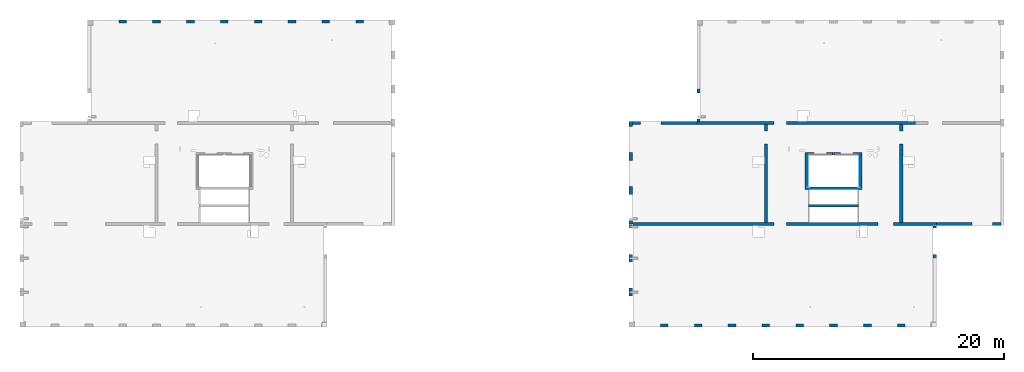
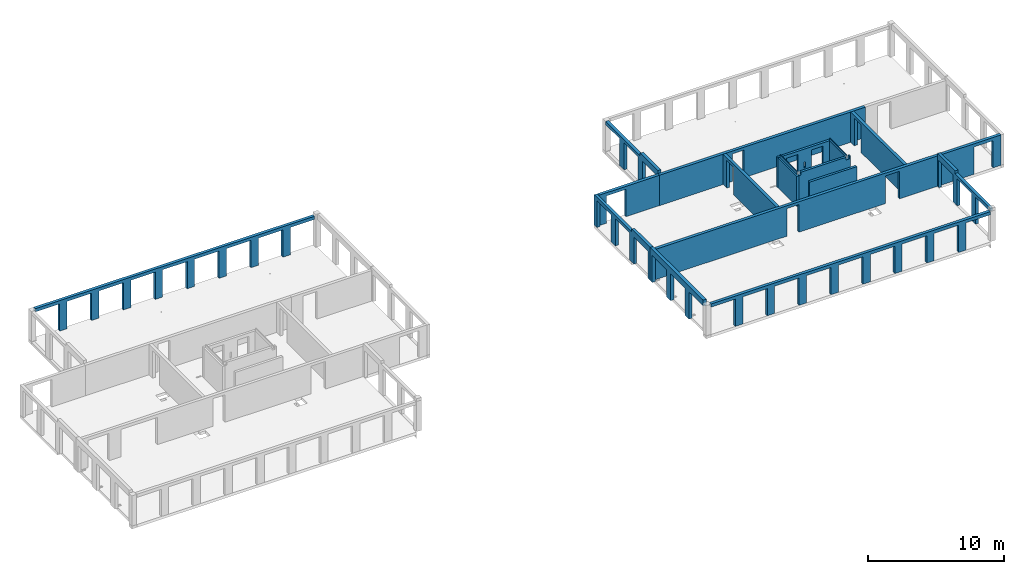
# One storey, part 5 of 11: 19 walls, 46 openings.
"""IFC2X3 building model written with IfcOpenShell, lengths in millimetres."""

import ifcopenshell
import ifcopenshell.guid

model = None  # the IFC model being written
_history = None  # IfcOwnerHistory: only IFC2X3 demands one
_inside = {}  # id of a spatial element -> (the spatial element, [elements in it])
_under = {}  # id of a project, library or spatial element -> (it, [spatial elements below it])
_declared = {}  # id of a project -> (the project, [libraries it declares])
_typed = {}  # id of a type object -> (the type object, [elements of that type])
_made_of = {}  # id of a material, layer set ... -> (it, [elements and type objects made of it])


def new_model(schema):
    """Start an empty IFC model of exactly this schema.

    Asked for "IFC4X3", IfcOpenShell would pick the latest addendum, in which some entities
    have other attributes; the version numbers below select the first issue.
    IFC2X3 requires an IfcOwnerHistory on every rooted entity: one is made here for all.
    """
    global model, _history
    if schema == "IFC4X3":
        model = ifcopenshell.file(schema_version=(4, 3, 0, 0))
    else:
        model = ifcopenshell.file(schema=schema)
    _inside.clear()
    _under.clear()
    _declared.clear()
    _typed.clear()
    _made_of.clear()
    _history = None
    if model.schema == "IFC2X3":
        org = make("IfcOrganization", Name="unknown")
        user = make(
            "IfcPersonAndOrganization",
            ThePerson=make("IfcPerson", FamilyName="unknown"),
            TheOrganization=org,
        )
        app = make(
            "IfcApplication",
            ApplicationDeveloper=org,
            Version="unknown",
            ApplicationFullName="unknown",
            ApplicationIdentifier="unknown",
        )
        _history = make(
            "IfcOwnerHistory",
            OwningUser=user,
            OwningApplication=app,
            ChangeAction="ADDED",
            CreationDate=0,
        )
    return model


def make(cls, **values):
    """One entity of the class cls with the attributes given. An attribute that is None is left unset."""
    return model.create_entity(
        cls, **{name: value for name, value in values.items() if value is not None}
    )


def entity(cls, *values):
    """Any entity or typed value of the class cls, its attributes in the order of the schema. None: left unset."""
    e = model.create_entity(cls)
    for i, value in enumerate(values):
        if value is not None:
            e[i] = value
    return e


def rooted(cls, **values):
    """An entity with a GlobalId (a new one), such as an element, a storey or a relation."""
    return make(cls, GlobalId=ifcopenshell.guid.new(), OwnerHistory=_history, **values)


def si_unit(unit_type, name, prefix=None):
    """IfcSIUnit, for example si_unit("LENGTHUNIT", "METRE", prefix="MILLI")."""
    return make("IfcSIUnit", UnitType=unit_type, Prefix=prefix, Name=name)


def converted_unit(unit_type, name, factor, base, dimensions=None, offset=None):
    """IfcConversionBasedUnit, such as the inch: factor (a typed value) times the base unit."""
    return make(
        "IfcConversionBasedUnit"
        if offset is None
        else "IfcConversionBasedUnitWithOffset",
        ConversionOffset=offset,
        Dimensions=None
        if dimensions is None
        else entity("IfcDimensionalExponents", *dimensions),
        UnitType=unit_type,
        Name=name,
        ConversionFactor=make(
            "IfcMeasureWithUnit", ValueComponent=factor, UnitComponent=base
        ),
    )


def derived_unit(unit_type, elements):
    """IfcDerivedUnit: a product of units, each with its exponent."""
    return make(
        "IfcDerivedUnit",
        Elements=[
            make("IfcDerivedUnitElement", Unit=unit, Exponent=power)
            for unit, power in elements
        ],
        UnitType=unit_type,
    )


def assignment(units):
    """IfcUnitAssignment: the units of a project."""
    return None if units is None else make("IfcUnitAssignment", Units=units)


def point(xyz):
    """IfcCartesianPoint."""
    return None if xyz is None else make("IfcCartesianPoint", Coordinates=xyz)


def direction(xyz):
    """IfcDirection."""
    return None if xyz is None else make("IfcDirection", DirectionRatios=xyz)


def frame(location, z_axis=None, x_axis=None):
    """IfcAxis2Placement3D, a coordinate frame: its origin and axes. An axis left out is left unset."""
    return make(
        "IfcAxis2Placement3D",
        Location=point(location),
        Axis=direction(z_axis),
        RefDirection=direction(x_axis),
    )


def frame_2d(location, x_axis=None):
    """IfcAxis2Placement2D, a coordinate frame in the plane: its origin and x axis."""
    return make(
        "IfcAxis2Placement2D", Location=point(location), RefDirection=direction(x_axis)
    )


def origin():
    """The frame at (0, 0, 0) with its axes left unset."""
    return frame((0.0, 0.0, 0.0))


def place(relative_to, where):
    """IfcLocalPlacement: puts the frame where relative to a parent placement (None: the world)."""
    return make(
        "IfcLocalPlacement", PlacementRelTo=relative_to, RelativePlacement=where
    )


def context(
    kind, dimensions, precision=None, world=None, true_north=None, identifier=None
):
    """IfcGeometricRepresentationContext, for example the 3D "Model" context."""
    return make(
        "IfcGeometricRepresentationContext",
        ContextIdentifier=identifier,
        ContextType=kind,
        CoordinateSpaceDimension=dimensions,
        Precision=precision,
        WorldCoordinateSystem=world,
        TrueNorth=true_north,
    )


def subcontext(parent, identifier, kind, view, scale=None):
    """IfcGeometricRepresentationSubContext, for example "Body" below "Model"."""
    return make(
        "IfcGeometricRepresentationSubContext",
        ContextIdentifier=identifier,
        ContextType=kind,
        ParentContext=parent,
        TargetScale=scale,
        TargetView=view,
    )


def project(units=None, contexts=None):
    """IfcProject with its units and contexts."""
    return rooted(
        "IfcProject",
        Name="project",
        RepresentationContexts=contexts,
        UnitsInContext=assignment(units),
    )


def spatial(cls, under=None, at=None, **own):
    """A site, building, storey or space (cls), placed at a placement, below another one or the project."""
    s = rooted(cls, ObjectPlacement=at, **own)
    if under is not None:
        _under.setdefault(under.id(), (under, []))[1].append(s)
    return s


def profile(cls, at=None, kind="AREA", **sizes):
    """A parametric profile (cls). Its sizes go by their IFC names, for example OverallWidth=200.0."""
    return make(cls, ProfileType=kind, Position=at, **sizes)


def rectangle(**sizes):
    """IfcRectangleProfileDef."""
    return profile("IfcRectangleProfileDef", **sizes)


def extrude(swept, where, along, depth):
    """IfcExtrudedAreaSolid: the profile swept, set in the frame where, extruded along a direction by depth."""
    return make(
        "IfcExtrudedAreaSolid",
        SweptArea=swept,
        Position=where,
        ExtrudedDirection=direction(along),
        Depth=depth,
    )


def shape(context_of_items, identifier, shape_type, items):
    """IfcShapeRepresentation: the items that make up one representation, for example the "Body"."""
    return make(
        "IfcShapeRepresentation",
        ContextOfItems=context_of_items,
        RepresentationIdentifier=identifier,
        RepresentationType=shape_type,
        Items=items,
    )


def material(Name=None, Category=None):
    """IfcMaterial."""
    return make("IfcMaterial", Name=Name, Category=Category)


def layer(
    of_material, thickness, ventilated=None, Name=None, Category=None, Priority=None
):
    """IfcMaterialLayer: one layer of a wall or slab, of a material (None: an air gap)."""
    return make(
        "IfcMaterialLayer",
        Material=of_material,
        LayerThickness=thickness,
        IsVentilated=ventilated,
        Name=Name,
        Category=Category,
        Priority=Priority,
    )


def layer_set(layers, Name=None):
    """IfcMaterialLayerSet."""
    return make("IfcMaterialLayerSet", MaterialLayers=layers, LayerSetName=Name)


def layer_usage(for_layer_set, set_direction, sense, offset, extent=None):
    """IfcMaterialLayerSetUsage: how a layer set lies in its element."""
    return make(
        "IfcMaterialLayerSetUsage",
        ForLayerSet=for_layer_set,
        LayerSetDirection=set_direction,
        DirectionSense=sense,
        OffsetFromReferenceLine=offset,
        ReferenceExtent=extent,
    )


def made_of(thing, what):
    """Note that an element or type object is made of a material, layer set ...; save() writes the relation."""
    if what is not None:
        _made_of.setdefault(what.id(), (what, []))[1].append(thing)
    return thing


def type_object(cls, material=None, **own):
    """A type object (cls), such as IfcWallType, which elements share."""
    return made_of(rooted(cls, **own), material)


def element(
    cls,
    number,
    at=None,
    inside=None,
    cuts=None,
    type_object=None,
    material=None,
    context=None,
    identifier="Body",
    shape_type=None,
    held_by="IfcProductDefinitionShape",
    body=None,
    shapes=None,
    **own,
):
    """One element of the class cls, such as IfcWall. Its Tag is "e" and its number.

    at: its placement. inside: the storey or other place that contains it. cuts: it is an
    opening in that element (IfcRelVoidsElement). A single representation is given by context,
    identifier, shape_type and body (its items); several are given by shapes. held_by: the class
    of the entity that holds the representations. save() writes the other relations.
    """
    e = rooted(cls, Tag="e%d" % number, ObjectPlacement=at, **own)
    if body is not None:
        shapes = [shape(context, identifier, shape_type, body)]
    if shapes is not None:
        e.Representation = make(held_by, Representations=shapes)
    if inside is not None:
        _inside.setdefault(inside.id(), (inside, []))[1].append(e)
    if cuts is not None:
        rooted(
            "IfcRelVoidsElement", RelatingBuildingElement=cuts, RelatedOpeningElement=e
        )
    if type_object is not None:
        _typed.setdefault(type_object.id(), (type_object, []))[1].append(e)
    return made_of(e, material)


def aggregate(whole, parts):
    """IfcRelAggregates: a whole, such as a stair, and the parts it consists of."""
    return rooted("IfcRelAggregates", RelatingObject=whole, RelatedObjects=parts)


def save(model, path):
    """Write the relations noted so far, then the file.

    IfcRelAggregates (storeys below a building ...), IfcRelContainedInSpatialStructure (elements
    in a storey), IfcRelDefinesByType, IfcRelAssociatesMaterial and IfcRelDeclares: one each for
    every whole, place, type object, material and project.
    """
    for whole, parts in _under.values():
        aggregate(whole, parts)
    for where, things in _inside.values():
        rooted(
            "IfcRelContainedInSpatialStructure",
            RelatedElements=things,
            RelatingStructure=where,
        )
    for kind, things in _typed.values():
        rooted("IfcRelDefinesByType", RelatedObjects=things, RelatingType=kind)
    for what, things in _made_of.values():
        rooted("IfcRelAssociatesMaterial", RelatedObjects=things, RelatingMaterial=what)
    for by, libraries in _declared.values():
        rooted("IfcRelDeclares", RelatingContext=by, RelatedDefinitions=libraries)
    model.write(path)


model = new_model("IFC2X3")

# Units and contexts
model_context = context("Model", 3, precision=0.01, world=origin(), true_north=direction((6.12303176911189e-17, 1.0)))
body_context = subcontext(model_context, "Body", "Model", "MODEL_VIEW")
ifc_project = project(units=[si_unit("LENGTHUNIT", "METRE", prefix="MILLI"), si_unit("AREAUNIT", "SQUARE_METRE"), si_unit("VOLUMEUNIT", "CUBIC_METRE"), converted_unit("PLANEANGLEUNIT", "DEGREE", entity("IfcRatioMeasure", 0.0174532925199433), si_unit("PLANEANGLEUNIT", "RADIAN"), dimensions=[0, 0, 0, 0, 0, 0, 0]), si_unit("MASSUNIT", "GRAM", prefix="KILO"), derived_unit("MASSDENSITYUNIT", [(si_unit("MASSUNIT", "GRAM", prefix="KILO"), 1), (si_unit("LENGTHUNIT", "METRE"), -3)]), si_unit("TIMEUNIT", "SECOND"), si_unit("FREQUENCYUNIT", "HERTZ"), si_unit("THERMODYNAMICTEMPERATUREUNIT", "DEGREE_CELSIUS"), derived_unit("THERMALTRANSMITTANCEUNIT", [(si_unit("MASSUNIT", "GRAM", prefix="KILO"), 1), (si_unit("THERMODYNAMICTEMPERATUREUNIT", "KELVIN"), -1), (si_unit("TIMEUNIT", "SECOND"), -3)]), derived_unit("VOLUMETRICFLOWRATEUNIT", [(si_unit("LENGTHUNIT", "METRE"), 3), (si_unit("TIMEUNIT", "SECOND"), -1)]), si_unit("ELECTRICCURRENTUNIT", "AMPERE"), si_unit("ELECTRICVOLTAGEUNIT", "VOLT"), si_unit("POWERUNIT", "WATT"), si_unit("FORCEUNIT", "NEWTON", prefix="KILO"), si_unit("ILLUMINANCEUNIT", "LUX"), si_unit("LUMINOUSFLUXUNIT", "LUMEN"), si_unit("LUMINOUSINTENSITYUNIT", "CANDELA"), derived_unit("USERDEFINED", [(si_unit("MASSUNIT", "GRAM", prefix="KILO"), -1), (si_unit("LENGTHUNIT", "METRE"), -2), (si_unit("TIMEUNIT", "SECOND"), 3), (si_unit("LUMINOUSFLUXUNIT", "LUMEN"), 1)]), derived_unit("LINEARVELOCITYUNIT", [(si_unit("LENGTHUNIT", "METRE"), 1), (si_unit("TIMEUNIT", "SECOND"), -1)]), si_unit("PRESSUREUNIT", "PASCAL"), derived_unit("USERDEFINED", [(si_unit("LENGTHUNIT", "METRE"), -2), (si_unit("MASSUNIT", "GRAM", prefix="KILO"), 1), (si_unit("TIMEUNIT", "SECOND"), -2)])], contexts=[model_context])

# Site, building, storey
site_placement = place(None, origin())
site = spatial("IfcSite", under=ifc_project, at=site_placement, Name="Default", CompositionType="ELEMENT")
building_placement = place(site_placement, origin())
building = spatial("IfcBuilding", under=site, at=building_placement, Name="niet gebruiken", CompositionType="ELEMENT")
storey_placement = place(building_placement, frame((0.0, 0.0, 57150.0)))
storey = spatial("IfcBuildingStorey", under=building, at=storey_placement, Name="19 negentiende verdieping", CompositionType="ELEMENT", Elevation=57150.0)

# Wall, openings
ifc_material_1 = material(Name="NLRS_f2_beton ihwg")
ifc_layer_1 = layer(ifc_material_1, 250.0)
ifc_layer_set_1 = layer_set([ifc_layer_1], Name="Basic Wall:NLRS_22.21_WA_beton ihwg d=250_gen")
ifc_layer_usage_1 = layer_usage(ifc_layer_set_1, "AXIS2", "NEGATIVE", 125.0)
wall_type_1 = type_object("IfcWallType", Name="Basic Wall:NLRS_22.21_WA_beton ihwg d=250_gen", PredefinedType="STANDARD", material=ifc_layer_set_1)
wall_1_placement = place(storey_placement, frame((75770.0, 36981.0, -90.0)))
wall_1 = element("IfcWallStandardCase", 1, at=wall_1_placement, inside=storey, type_object=wall_type_1, material=ifc_layer_usage_1, Name="Basic Wall:NLRS_22.21_WA_beton ihwg d=250_gen", ObjectType="Basic Wall:NLRS_22.21_WA_beton ihwg d=250_gen", context=body_context, shape_type="SweptSolid", body=[
    extrude(rectangle(XDim=24230.0000000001, YDim=250.000000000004, at=frame_2d((12115.0, 0.0), x_axis=(-1.0, 0.0))), origin(), (0.0, 0.0, 1.0), 2719.99999999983),
])
opening_1_placement = place(wall_1_placement, origin())
element("IfcOpeningElement", 2, at=opening_1_placement, cuts=wall_1, Name="Basic Wall:NLRS_22.21_WA_beton ihwg d=250_gen", ObjectType="Opening", context=body_context, shape_type="SweptSolid", body=[
    extrude(rectangle(XDim=2470.0, YDim=1225.0, at=frame_2d((8.69704308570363e-12, 4.43378667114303e-12), x_axis=(0.0, 1.0))), frame((20192.500000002, -1399.0, 1235.0), z_axis=(0.0, 1.0, 0.0), x_axis=(-1.0, 0.0, 0.0)), (0.0, 0.0, 1.0), 3048.0),
])
opening_2_placement = place(wall_1_placement, origin())
element("IfcOpeningElement", 3, at=opening_2_placement, cuts=wall_1, Name="Basic Wall:NLRS_22.21_WA_beton ihwg d=250_gen", ObjectType="Opening", context=body_context, shape_type="SweptSolid", body=[
    extrude(rectangle(XDim=2470.0, YDim=1006.0, at=frame_2d((-8.66862137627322e-12, -4.43378667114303e-12), x_axis=(0.0, 1.0))), frame((11782.0, -1399.0, 1235.0), z_axis=(0.0, 1.0, 0.0), x_axis=(-1.0, 0.0, 0.0)), (0.0, 0.0, 1.0), 3048.0),
])
opening_3_placement = place(wall_1_placement, origin())
element("IfcOpeningElement", 4, at=opening_3_placement, cuts=wall_1, Name="Basic Wall:NLRS_22.21_WA_beton ihwg d=250_gen", ObjectType="Recess", context=body_context, shape_type="SweptSolid", body=[
    extrude(rectangle(XDim=55000.0, YDim=19.9999999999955, at=frame_2d((0.0, 4.33164615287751e-12), x_axis=(1.0, 0.0))), frame((10.0, -140.0, -17050.0), z_axis=(0.0, 1.0, 0.0), x_axis=(0.0, 0.0, -1.0)), (0.0, 0.0, 1.0), 124.999999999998),
])

# Wall, opening
ifc_layer_usage_2 = layer_usage(ifc_layer_set_1, "AXIS2", "NEGATIVE", 125.0)
wall_2_placement = place(storey_placement, frame((75770.0, 45031.0, -90.0)))
wall_2 = element("IfcWallStandardCase", 5, at=wall_2_placement, inside=storey, type_object=wall_type_1, material=ifc_layer_usage_2, Name="Basic Wall:NLRS_22.21_WA_beton ihwg d=250_gen", ObjectType="Basic Wall:NLRS_22.21_WA_beton ihwg d=250_gen", context=body_context, shape_type="SweptSolid", body=[
    extrude(rectangle(XDim=5130.0, YDim=249.999999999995, at=frame_2d((2565.0, 0.0), x_axis=(-1.0, 0.0))), origin(), (0.0, 0.0, 1.0), 2719.99999999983),
])
opening_4_placement = place(wall_2_placement, origin())
element("IfcOpeningElement", 6, at=opening_4_placement, cuts=wall_2, Name="Basic Wall:NLRS_22.21_WA_beton ihwg d=250_gen", ObjectType="Opening", context=body_context, shape_type="SweptSolid", body=[
    extrude(rectangle(XDim=2440.0, YDim=1640.0, at=frame_2d((0.0, 4.37694325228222e-12), x_axis=(1.0, 0.0))), frame((1460.0, -1649.0, 1220.0), z_axis=(0.0, 1.0, 0.0), x_axis=(0.0, 0.0, 1.0)), (0.0, 0.0, 1.0), 3048.0),
])

ifc_layer_usage_3 = layer_usage(ifc_layer_set_1, "AXIS2", "NEGATIVE", 125.0)
wall_3_placement = place(storey_placement, frame((86400.0, 44906.0, -90.0), z_axis=(0.0, 0.0, 1.0), x_axis=(0.0, -1.0, 0.0)))
wall_3 = element("IfcWallStandardCase", 7, at=wall_3_placement, inside=storey, type_object=wall_type_1, material=ifc_layer_usage_3, Name="Basic Wall:NLRS_22.21_WA_beton ihwg d=250_gen", ObjectType="Basic Wall:NLRS_22.21_WA_beton ihwg d=250_gen", context=body_context, shape_type="SweptSolid", body=[
    extrude(rectangle(XDim=7799.99999999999, YDim=250.000000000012, at=frame_2d((3900.0, 0.0), x_axis=(-1.0, 0.0))), origin(), (0.0, 0.0, 1.0), 2719.99999999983),
])
opening_5_placement = place(wall_3_placement, origin())
element("IfcOpeningElement", 8, at=opening_5_placement, cuts=wall_3, Name="Basic Wall:NLRS_22.21_WA_beton ihwg d=250_gen", ObjectType="Opening", context=body_context, shape_type="SweptSolid", body=[
    extrude(rectangle(XDim=2470.0, YDim=1006.0, at=frame_2d((-4.43378667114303e-12, 0.0), x_axis=(1.0, 0.0))), frame((1027.0, -1649.0, 1235.0), z_axis=(0.0, 1.0, 0.0), x_axis=(0.0, 0.0, 1.0)), (0.0, 0.0, 1.0), 3048.0),
])

ifc_layer_usage_4 = layer_usage(ifc_layer_set_1, "AXIS2", "NEGATIVE", 125.0)
wall_4_placement = place(storey_placement, frame((97200.0, 44906.0, -90.0), z_axis=(0.0, 0.0, 1.0), x_axis=(0.0, -1.0, 0.0)))
wall_4 = element("IfcWallStandardCase", 9, at=wall_4_placement, inside=storey, type_object=wall_type_1, material=ifc_layer_usage_4, Name="Basic Wall:NLRS_22.21_WA_beton ihwg d=250_gen", ObjectType="Basic Wall:NLRS_22.21_WA_beton ihwg d=250_gen", context=body_context, shape_type="SweptSolid", body=[
    extrude(rectangle(XDim=7799.99999999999, YDim=250.000000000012, at=frame_2d((3900.0, 0.0), x_axis=(-1.0, 0.0))), origin(), (0.0, 0.0, 1.0), 2719.99999999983),
])
opening_6_placement = place(wall_4_placement, origin())
element("IfcOpeningElement", 10, at=opening_6_placement, cuts=wall_4, Name="Basic Wall:NLRS_22.21_WA_beton ihwg d=250_gen", ObjectType="Opening", context=body_context, shape_type="SweptSolid", body=[
    extrude(rectangle(XDim=2470.0, YDim=1006.0, at=frame_2d((4.43378667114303e-12, 0.0), x_axis=(1.0, 0.0))), frame((1027.0, -1649.0, 1235.0), z_axis=(0.0, 1.0, 0.0), x_axis=(0.0, 0.0, 1.0)), (0.0, 0.0, 1.0), 3048.0),
])

ifc_layer_usage_5 = layer_usage(ifc_layer_set_1, "AXIS2", "NEGATIVE", 125.0)
wall_5_placement = place(storey_placement, frame((80900.0, 45031.0, -90.0)))
wall_5 = element("IfcWallStandardCase", 11, at=wall_5_placement, inside=storey, type_object=wall_type_1, material=ifc_layer_usage_5, Name="Basic Wall:NLRS_22.21_WA_beton ihwg d=250_gen", ObjectType="Basic Wall:NLRS_22.21_WA_beton ihwg d=250_gen", context=body_context, shape_type="SweptSolid", body=[
    extrude(rectangle(XDim=17425.0, YDim=249.999999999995, at=frame_2d((8712.50000000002, 0.0), x_axis=(-1.0, 0.0))), origin(), (0.0, 0.0, 1.0), 2719.99999999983),
])
opening_7_placement = place(wall_5_placement, origin())
element("IfcOpeningElement", 12, at=opening_7_placement, cuts=wall_5, Name="Basic Wall:NLRS_22.21_WA_beton ihwg d=250_gen", ObjectType="Opening", context=body_context, shape_type="SweptSolid", body=[
    extrude(rectangle(XDim=2470.0, YDim=1006.0, at=frame_2d((4.43378667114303e-12, -8.66862137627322e-12), x_axis=(1.0, 0.0))), frame((6652.0, -1649.0, 1235.0), z_axis=(0.0, 1.0, 0.0), x_axis=(0.0, 0.0, 1.0)), (0.0, 0.0, 1.0), 3048.0),
])

ifc_layer_usage_6 = layer_usage(ifc_layer_set_1, "AXIS2", "NEGATIVE", 125.0)
wall_6_placement = place(storey_placement, frame((100000.0, 36981.0, -90.0)))
wall_6 = element("IfcWallStandardCase", 13, at=wall_6_placement, inside=storey, type_object=wall_type_1, material=ifc_layer_usage_6, Name="Basic Wall:NLRS_22.21_WA_beton ihwg d=250_gen", ObjectType="Basic Wall:NLRS_22.21_WA_beton ihwg d=250_gen", context=body_context, shape_type="SweptSolid", body=[
    extrude(rectangle(XDim=5150.00000000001, YDim=250.000000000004, at=frame_2d((2575.0, 0.0), x_axis=(-1.0, 0.0))), origin(), (0.0, 0.0, 1.0), 2719.99999999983),
])
opening_8_placement = place(wall_6_placement, origin())
element("IfcOpeningElement", 14, at=opening_8_placement, cuts=wall_6, Name="Basic Wall:NLRS_22.21_WA_beton ihwg d=250_gen", ObjectType="Opening", context=body_context, shape_type="SweptSolid", body=[
    extrude(rectangle(XDim=2440.0, YDim=1639.99999999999, at=frame_2d((-8.69704308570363e-12, 0.0), x_axis=(0.0, 1.0))), frame((3670.0, -1399.0, 1220.0), z_axis=(0.0, 1.0, 0.0), x_axis=(-1.0, 0.0, 0.0)), (0.0, 0.0, 1.0), 3048.0),
])

# Wall, openings
ifc_material_2 = material(Name="NLRS_f2_beton prefab")
ifc_layer_2 = layer(ifc_material_2, 250.0)
ifc_layer_set_2 = layer_set([ifc_layer_2], Name="Basic Wall:NLRS_21.21_WA_beton prefab d=250_gen")
ifc_layer_usage_7 = layer_usage(ifc_layer_set_2, "AXIS2", "NEGATIVE", 125.0)
wall_type_2 = type_object("IfcWallType", Name="Basic Wall:NLRS_21.21_WA_beton prefab d=250_gen", PredefinedType="STANDARD", material=ifc_layer_set_2)
wall_7_placement = place(storey_placement, frame((75625.0, 45156.0, -70.0), z_axis=(0.0, 0.0, 1.0), x_axis=(0.0, -1.0, 0.0)))
wall_7 = element("IfcWallStandardCase", 15, at=wall_7_placement, inside=storey, type_object=wall_type_2, material=ifc_layer_usage_7, Name="Basic Wall:NLRS_21.21_WA_beton prefab d=250_gen", ObjectType="Basic Wall:NLRS_21.21_WA_beton prefab d=250_gen", context=body_context, shape_type="SweptSolid", body=[
    extrude(rectangle(XDim=8189.99999999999, YDim=249.999999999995, at=frame_2d((4095.0, 0.0), x_axis=(-1.0, 0.0))), origin(), (0.0, 0.0, 1.0), 2949.99999999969),
])
opening_9_placement = place(wall_7_placement, origin())
element("IfcOpeningElement", 16, at=opening_9_placement, cuts=wall_7, Name="Basic Wall:NLRS_21.21_WA_beton prefab d=250_gen", ObjectType="Opening", context=body_context, shape_type="SweptSolid", body=[
    extrude(rectangle(XDim=2420.0, YDim=2080.0, at=frame_2d((0.0, 0.0), x_axis=(0.0, 1.0))), frame((1450.0, -1399.0, 1210.0), z_axis=(0.0, 1.0, 0.0), x_axis=(-1.0, 0.0, 0.0)), (0.0, 0.0, 1.0), 3048.0),
])
opening_10_placement = place(wall_7_placement, origin())
element("IfcOpeningElement", 17, at=opening_10_placement, cuts=wall_7, Name="Basic Wall:NLRS_21.21_WA_beton prefab d=250_gen", ObjectType="Opening", context=body_context, shape_type="SweptSolid", body=[
    extrude(rectangle(XDim=2420.0, YDim=2080.0, at=frame_2d((0.0, 0.0), x_axis=(0.0, 1.0))), frame((4150.0, -1399.0, 1210.0), z_axis=(0.0, 1.0, 0.0), x_axis=(-1.0, 0.0, 0.0)), (0.0, 0.0, 1.0), 3048.0),
])
opening_11_placement = place(wall_7_placement, origin())
element("IfcOpeningElement", 18, at=opening_11_placement, cuts=wall_7, Name="Basic Wall:NLRS_21.21_WA_beton prefab d=250_gen", ObjectType="Opening", context=body_context, shape_type="SweptSolid", body=[
    extrude(rectangle(XDim=2420.0, YDim=2080.0, at=frame_2d((0.0, 0.0), x_axis=(0.0, 1.0))), frame((6850.0, -1399.0, 1210.0), z_axis=(0.0, 1.0, 0.0), x_axis=(-1.0, 0.0, 0.0)), (0.0, 0.0, 1.0), 3048.0),
])
opening_12_placement = place(wall_7_placement, origin())
element("IfcOpeningElement", 19, at=opening_12_placement, cuts=wall_7, Name="Basic Wall:NLRS_21.21_WA_beton prefab d=250_gen", ObjectType="Opening", context=body_context, shape_type="SweptSolid", body=[
    extrude(rectangle(XDim=249.999999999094, YDim=5499.99999999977, at=frame_2d((0.0, -8.66862137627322e-12), x_axis=(0.0, 1.0))), frame((2750.0, 125.0, 2825.0), z_axis=(0.0, -1.0, 0.0), x_axis=(-1.0, 0.0, 0.0)), (0.0, 0.0, 1.0), 250.0),
])

ifc_layer_usage_8 = layer_usage(ifc_layer_set_2, "AXIS2", "NEGATIVE", 125.0)
wall_8_placement = place(storey_placement, frame((81025.0, 52846.0, -70.0), z_axis=(0.0, 0.0, 1.0), x_axis=(0.0, -1.0, 0.0)))
wall_8 = element("IfcWallStandardCase", 20, at=wall_8_placement, inside=storey, type_object=wall_type_2, material=ifc_layer_usage_8, Name="Basic Wall:NLRS_21.21_WA_beton prefab d=250_gen", ObjectType="Basic Wall:NLRS_21.21_WA_beton prefab d=250_gen", context=body_context, shape_type="SweptSolid", body=[
    extrude(rectangle(XDim=7670.00000000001, YDim=250.000000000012, at=frame_2d((3835.0, 0.0), x_axis=(-1.0, 0.0))), origin(), (0.0, 0.0, 1.0), 2949.99999999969),
])
opening_13_placement = place(wall_8_placement, origin())
element("IfcOpeningElement", 21, at=opening_13_placement, cuts=wall_8, Name="Basic Wall:NLRS_21.21_WA_beton prefab d=250_gen", ObjectType="Opening", context=body_context, shape_type="SweptSolid", body=[
    extrude(rectangle(XDim=2420.0, YDim=2080.0, at=frame_2d((0.0, 0.0), x_axis=(0.0, 1.0))), frame((1040.0, -1399.0, 1210.0), z_axis=(0.0, 1.0, 0.0), x_axis=(-1.0, 0.0, 0.0)), (0.0, 0.0, 1.0), 3048.0),
])
opening_14_placement = place(wall_8_placement, origin())
element("IfcOpeningElement", 22, at=opening_14_placement, cuts=wall_8, Name="Basic Wall:NLRS_21.21_WA_beton prefab d=250_gen", ObjectType="Opening", context=body_context, shape_type="SweptSolid", body=[
    extrude(rectangle(XDim=2420.0, YDim=2080.0, at=frame_2d((0.0, 0.0), x_axis=(0.0, 1.0))), frame((3740.0, -1399.0, 1210.0), z_axis=(0.0, 1.0, 0.0), x_axis=(-1.0, 0.0, 0.0)), (0.0, 0.0, 1.0), 3048.0),
])
opening_15_placement = place(wall_8_placement, origin())
element("IfcOpeningElement", 23, at=opening_15_placement, cuts=wall_8, Name="Basic Wall:NLRS_21.21_WA_beton prefab d=250_gen", ObjectType="Opening", context=body_context, shape_type="SweptSolid", body=[
    extrude(rectangle(XDim=2420.0, YDim=2080.0, at=frame_2d((0.0, 0.0), x_axis=(0.0, 1.0))), frame((6440.0, -1399.0, 1210.0), z_axis=(0.0, 1.0, 0.0), x_axis=(-1.0, 0.0, 0.0)), (0.0, 0.0, 1.0), 3048.0),
])
opening_16_placement = place(wall_8_placement, origin())
element("IfcOpeningElement", 24, at=opening_16_placement, cuts=wall_8, Name="Basic Wall:NLRS_21.21_WA_beton prefab d=250_gen", ObjectType="Opening", context=body_context, shape_type="SweptSolid", body=[
    extrude(rectangle(XDim=249.999999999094, YDim=5089.99999999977, at=frame_2d((4.32009983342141e-12, -8.66862137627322e-12), x_axis=(0.0, 1.0))), frame((2545.0, 125.0, 2825.0), z_axis=(0.0, -1.0, 0.0), x_axis=(-1.0, 0.0, 0.0)), (0.0, 0.0, 1.0), 250.0),
])

ifc_layer_usage_9 = layer_usage(ifc_layer_set_2, "AXIS2", "NEGATIVE", 125.0)
wall_9_placement = place(storey_placement, frame((99875.0, 29166.0, -70.0), z_axis=(0.0, 0.0, 1.0), x_axis=(0.0, 1.0, 0.0)))
wall_9 = element("IfcWallStandardCase", 25, at=wall_9_placement, inside=storey, type_object=wall_type_2, material=ifc_layer_usage_9, Name="Basic Wall:NLRS_21.21_WA_beton prefab d=250_gen", ObjectType="Basic Wall:NLRS_21.21_WA_beton prefab d=250_gen", context=body_context, shape_type="SweptSolid", body=[
    extrude(rectangle(XDim=7669.99999999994, YDim=250.000000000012, at=frame_2d((3834.99999999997, 0.0), x_axis=(-1.0, 0.0))), origin(), (0.0, 0.0, 1.0), 2949.99999999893),
])
opening_17_placement = place(wall_9_placement, origin())
element("IfcOpeningElement", 26, at=opening_17_placement, cuts=wall_9, Name="Basic Wall:NLRS_21.21_WA_beton prefab d=250_gen", ObjectType="Opening", context=body_context, shape_type="SweptSolid", body=[
    extrude(rectangle(XDim=2420.0, YDim=2080.0, at=frame_2d((-2.1600499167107e-12, 0.0), x_axis=(0.0, 1.0))), frame((1040.0, -1399.0, 1210.0), z_axis=(0.0, 1.0, 0.0), x_axis=(-1.0, 0.0, 0.0)), (0.0, 0.0, 1.0), 3048.0),
])
opening_18_placement = place(wall_9_placement, origin())
element("IfcOpeningElement", 27, at=opening_18_placement, cuts=wall_9, Name="Basic Wall:NLRS_21.21_WA_beton prefab d=250_gen", ObjectType="Opening", context=body_context, shape_type="SweptSolid", body=[
    extrude(rectangle(XDim=2420.0, YDim=2080.0, at=frame_2d((2.1600499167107e-12, 0.0), x_axis=(0.0, 1.0))), frame((6440.0, -1399.0, 1210.0), z_axis=(0.0, 1.0, 0.0), x_axis=(-1.0, 0.0, 0.0)), (0.0, 0.0, 1.0), 3048.0),
])
opening_19_placement = place(wall_9_placement, origin())
element("IfcOpeningElement", 28, at=opening_19_placement, cuts=wall_9, Name="Basic Wall:NLRS_21.21_WA_beton prefab d=250_gen", ObjectType="Opening", context=body_context, shape_type="SweptSolid", body=[
    extrude(rectangle(XDim=2420.0, YDim=2080.0, at=frame_2d((2.1600499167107e-12, 0.0), x_axis=(0.0, 1.0))), frame((3740.0, -1399.0, 1210.0), z_axis=(0.0, 1.0, 0.0), x_axis=(-1.0, 0.0, 0.0)), (0.0, 0.0, 1.0), 3048.0),
])
opening_20_placement = place(wall_9_placement, origin())
element("IfcOpeningElement", 29, at=opening_20_placement, cuts=wall_9, Name="Basic Wall:NLRS_21.21_WA_beton prefab d=250_gen", ObjectType="Opening", context=body_context, shape_type="SweptSolid", body=[
    extrude(rectangle(XDim=249.999999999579, YDim=5090.00000000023, at=frame_2d((0.0, -8.66151594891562e-12), x_axis=(0.0, 1.0))), frame((2545.0, 125.0, 2825.0), z_axis=(0.0, -1.0, 0.0), x_axis=(-1.0, 0.0, 0.0)), (0.0, 0.0, 1.0), 250.0),
])

# Wall
ifc_layer_3 = layer(ifc_material_2, 200.0)
ifc_layer_set_3 = layer_set([ifc_layer_3], Name="Basic Wall:NLRS_21.21_WA_beton prefab d=200_gen")
ifc_layer_usage_10 = layer_usage(ifc_layer_set_3, "AXIS2", "NEGATIVE", 100.0)
wall_type_3 = type_object("IfcWallType", Name="Basic Wall:NLRS_21.21_WA_beton prefab d=200_gen", PredefinedType="STANDARD", material=ifc_layer_set_3)
wall_10_placement = place(storey_placement, frame((89800.0, 38426.0, -70.0)))
element("IfcWallStandardCase", 30, at=wall_10_placement, inside=storey, type_object=wall_type_3, material=ifc_layer_usage_10, Name="Basic Wall:NLRS_21.21_WA_beton prefab d=200_gen", ObjectType="Basic Wall:NLRS_21.21_WA_beton prefab d=200_gen", context=body_context, shape_type="SweptSolid", body=[
    extrude(rectangle(XDim=3999.99999999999, YDim=199.999999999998, at=frame_2d((2000.0, 0.0), x_axis=(-1.0, 0.0))), origin(), (0.0, 0.0, 1.0), 2950.00000000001),
])

# Wall, openings
ifc_layer_4 = layer(ifc_material_2, 200.0)
ifc_layer_set_4 = layer_set([ifc_layer_4], Name="Basic Wall:NLRS_22.21_WA_beton prefab d=200_gen")
ifc_layer_usage_11 = layer_usage(ifc_layer_set_4, "AXIS2", "NEGATIVE", 100.0)
wall_type_4 = type_object("IfcWallType", Name="Basic Wall:NLRS_22.21_WA_beton prefab d=200_gen", PredefinedType="STANDARD", material=ifc_layer_set_4)
wall_11_placement = place(storey_placement, frame((89525.0, 42596.0, -70.0)))
wall_11 = element("IfcWallStandardCase", 31, at=wall_11_placement, inside=storey, type_object=wall_type_4, material=ifc_layer_usage_11, Name="Basic Wall:NLRS_22.21_WA_beton prefab d=200_gen", ObjectType="Basic Wall:NLRS_22.21_WA_beton prefab d=200_gen", context=body_context, shape_type="SweptSolid", body=[
    extrude(rectangle(XDim=4550.00000000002, YDim=200.000000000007, at=frame_2d((2275.00000000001, 7.8159700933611e-13), x_axis=(-1.0, 0.0))), origin(), (0.0, 0.0, 1.0), 2699.99999999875),
])
opening_21_placement = place(wall_11_placement, origin())
element("IfcOpeningElement", 32, at=opening_21_placement, cuts=wall_11, Name="Basic Wall:NLRS_22.21_WA_beton prefab d=200_gen", ObjectType="Opening", context=body_context, shape_type="SweptSolid", body=[
    extrude(rectangle(XDim=2430.0, YDim=980.000000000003, at=frame_2d((0.0, -8.66862137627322e-12), x_axis=(1.0, 0.0))), frame((1219.99984910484, -1624.0, 1195.0), z_axis=(0.0, 1.0, 0.0), x_axis=(0.0, 0.0, 1.0)), (0.0, 0.0, 1.0), 3048.0),
])
opening_22_placement = place(wall_11_placement, origin())
element("IfcOpeningElement", 33, at=opening_22_placement, cuts=wall_11, Name="Basic Wall:NLRS_22.21_WA_beton prefab d=200_gen", ObjectType="Opening", context=body_context, shape_type="SweptSolid", body=[
    extrude(rectangle(XDim=2430.0, YDim=980.000000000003, at=frame_2d((0.0, -8.66862137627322e-12), x_axis=(1.0, 0.0))), frame((3329.99984910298, -1624.0, 1195.0), z_axis=(0.0, 1.0, 0.0), x_axis=(0.0, 0.0, 1.0)), (0.0, 0.0, 1.0), 3048.0),
])
opening_23_placement = place(wall_11_placement, origin())
element("IfcOpeningElement", 34, at=opening_23_placement, cuts=wall_11, Name="Basic Wall:NLRS_22.21_WA_beton prefab d=200_gen", ObjectType="Opening", context=body_context, shape_type="SweptSolid", body=[
    extrude(rectangle(XDim=505.000000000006, YDim=135.000000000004, at=frame_2d((-4.33431068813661e-12, -8.66151594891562e-12), x_axis=(1.0, 0.0))), frame((2275.0, -1624.0, 1272.50000000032), z_axis=(0.0, 1.0, 0.0), x_axis=(0.0, 0.0, 1.0)), (0.0, 0.0, 1.0), 3048.0),
])

# Wall
ifc_layer_usage_12 = layer_usage(ifc_layer_set_4, "AXIS2", "NEGATIVE", 100.0)
wall_12_placement = place(storey_placement, frame((89625.0, 42496.0, -70.0), z_axis=(0.0, 0.0, 1.0), x_axis=(0.0, -1.0, 0.0)))
element("IfcWallStandardCase", 35, at=wall_12_placement, inside=storey, type_object=wall_type_4, material=ifc_layer_usage_12, Name="Basic Wall:NLRS_22.21_WA_beton prefab d=200_gen", ObjectType="Basic Wall:NLRS_22.21_WA_beton prefab d=200_gen", context=body_context, shape_type="SweptSolid", body=[
    extrude(rectangle(XDim=2749.99999999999, YDim=199.999999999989, at=frame_2d((1375.0, 0.0), x_axis=(-1.0, 0.0))), origin(), (0.0, 0.0, 1.0), 2700.00000000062),
])

# Wall, openings
ifc_layer_usage_13 = layer_usage(ifc_layer_set_4, "AXIS2", "NEGATIVE", 100.0)
wall_13_placement = place(storey_placement, frame((94075.0, 39846.0, -70.0), z_axis=(0.0, 0.0, 1.0), x_axis=(-1.0, 0.0, 0.0)))
wall_13 = element("IfcWallStandardCase", 36, at=wall_13_placement, inside=storey, type_object=wall_type_4, material=ifc_layer_usage_13, Name="Basic Wall:NLRS_22.21_WA_beton prefab d=200_gen", ObjectType="Basic Wall:NLRS_22.21_WA_beton prefab d=200_gen", context=body_context, shape_type="SweptSolid", body=[
    extrude(rectangle(XDim=4350.00000000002, YDim=200.000000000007, at=frame_2d((2175.00000000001, 0.0), x_axis=(-1.0, 0.0))), origin(), (0.0, 0.0, 1.0), 2950.00000000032),
])
opening_24_placement = place(wall_13_placement, origin())
element("IfcOpeningElement", 37, at=opening_24_placement, cuts=wall_13, Name="Basic Wall:NLRS_22.21_WA_beton prefab d=200_gen", ObjectType="Opening", context=body_context, shape_type="SweptSolid", body=[
    extrude(rectangle(XDim=250.000000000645, YDim=275.000000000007, at=frame_2d((-4.33431068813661e-12, -8.65441052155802e-12), x_axis=(1.0, 0.0))), frame((4312.5, 100.0, 2825.0), z_axis=(0.0, -1.0, 0.0), x_axis=(0.0, 0.0, 1.0)), (0.0, 0.0, 1.0), 200.0),
])
opening_25_placement = place(wall_13_placement, origin())
element("IfcOpeningElement", 38, at=opening_25_placement, cuts=wall_13, Name="Basic Wall:NLRS_22.21_WA_beton prefab d=200_gen", ObjectType="Opening", context=body_context, shape_type="SweptSolid", body=[
    extrude(rectangle(XDim=250.000000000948, YDim=275.000216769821, at=frame_2d((0.0, 0.0), x_axis=(0.0, 1.0))), frame((237.500108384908, 100.0, 2825.0), z_axis=(0.0, -1.0, 0.0), x_axis=(-1.0, 0.0, 0.0)), (0.0, 0.0, 1.0), 200.0),
])

# Wall
ifc_layer_usage_14 = layer_usage(ifc_layer_set_4, "AXIS2", "NEGATIVE", 100.0)
wall_14_placement = place(storey_placement, frame((93975.0, 39946.0, -70.0), z_axis=(0.0, 0.0, 1.0), x_axis=(0.0, 1.0, 0.0)))
element("IfcWallStandardCase", 39, at=wall_14_placement, inside=storey, type_object=wall_type_4, material=ifc_layer_usage_14, Name="Basic Wall:NLRS_22.21_WA_beton prefab d=200_gen", ObjectType="Basic Wall:NLRS_22.21_WA_beton prefab d=200_gen", context=body_context, shape_type="SweptSolid", body=[
    extrude(rectangle(XDim=2549.99999999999, YDim=199.999999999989, at=frame_2d((1275.0, 0.0), x_axis=(-1.0, 0.0))), origin(), (0.0, 0.0, 1.0), 2700.00000000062),
])

# Wall, openings
ifc_layer_5 = layer(ifc_material_1, 250.0)
ifc_layer_set_5 = layer_set([ifc_layer_5], Name="Basic Wall:NLRS_21.21_WA_beton ihwg d=250_gen")
ifc_layer_usage_15 = layer_usage(ifc_layer_set_5, "AXIS2", "NEGATIVE", 125.0)
wall_type_5 = type_object("IfcWallType", Name="Basic Wall:NLRS_21.21_WA_beton ihwg d=250_gen", PredefinedType="STANDARD", material=ifc_layer_set_5)
wall_15_placement = place(storey_placement, frame((75930.0, 28881.0, -90.0)))
wall_15 = element("IfcWallStandardCase", 40, at=wall_15_placement, inside=storey, type_object=wall_type_5, material=ifc_layer_usage_15, Name="Basic Wall:NLRS_21.21_WA_beton ihwg d=250_gen", ObjectType="Basic Wall:NLRS_21.21_WA_beton ihwg d=250_gen", context=body_context, shape_type="SweptSolid", body=[
    extrude(rectangle(XDim=23640.0000000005, YDim=250.000000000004, at=frame_2d((11820.0000000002, -8.66862137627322e-13), x_axis=(-1.0, 0.0))), origin(), (0.0, 0.0, 1.0), 2720.00000000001),
])
opening_26_placement = place(wall_15_placement, origin())
element("IfcOpeningElement", 41, at=opening_26_placement, cuts=wall_15, Name="Basic Wall:NLRS_21.21_WA_beton ihwg d=250_gen", ObjectType="Opening", context=body_context, shape_type="SweptSolid", body=[
    extrude(rectangle(XDim=2440.0, YDim=2080.0, at=frame_2d((8.64019966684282e-12, 0.0), x_axis=(0.0, 1.0))), frame((22620.0, -1399.0, 1220.0), z_axis=(0.0, 1.0, 0.0), x_axis=(-1.0, 0.0, 0.0)), (0.0, 0.0, 1.0), 3048.0),
])
opening_27_placement = place(wall_15_placement, origin())
element("IfcOpeningElement", 42, at=opening_27_placement, cuts=wall_15, Name="Basic Wall:NLRS_21.21_WA_beton ihwg d=250_gen", ObjectType="Opening", context=body_context, shape_type="SweptSolid", body=[
    extrude(rectangle(XDim=2440.0, YDim=2080.0, at=frame_2d((8.64019966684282e-12, 0.0), x_axis=(0.0, 1.0))), frame((19920.0, -1399.0, 1220.0), z_axis=(0.0, 1.0, 0.0), x_axis=(-1.0, 0.0, 0.0)), (0.0, 0.0, 1.0), 3048.0),
])
opening_28_placement = place(wall_15_placement, origin())
element("IfcOpeningElement", 43, at=opening_28_placement, cuts=wall_15, Name="Basic Wall:NLRS_21.21_WA_beton ihwg d=250_gen", ObjectType="Opening", context=body_context, shape_type="SweptSolid", body=[
    extrude(rectangle(XDim=2440.0, YDim=2080.0, at=frame_2d((8.64019966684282e-12, 0.0), x_axis=(0.0, 1.0))), frame((17220.0, -1399.0, 1220.0), z_axis=(0.0, 1.0, 0.0), x_axis=(-1.0, 0.0, 0.0)), (0.0, 0.0, 1.0), 3048.0),
])
opening_29_placement = place(wall_15_placement, origin())
element("IfcOpeningElement", 44, at=opening_29_placement, cuts=wall_15, Name="Basic Wall:NLRS_21.21_WA_beton ihwg d=250_gen", ObjectType="Opening", context=body_context, shape_type="SweptSolid", body=[
    extrude(rectangle(XDim=2440.0, YDim=2080.0, at=frame_2d((-8.64019966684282e-12, 0.0), x_axis=(0.0, 1.0))), frame((14520.0, -1399.0, 1220.0), z_axis=(0.0, 1.0, 0.0), x_axis=(-1.0, 0.0, 0.0)), (0.0, 0.0, 1.0), 3048.0),
])
opening_30_placement = place(wall_15_placement, origin())
element("IfcOpeningElement", 45, at=opening_30_placement, cuts=wall_15, Name="Basic Wall:NLRS_21.21_WA_beton ihwg d=250_gen", ObjectType="Opening", context=body_context, shape_type="SweptSolid", body=[
    extrude(rectangle(XDim=2440.0, YDim=2080.0, at=frame_2d((8.64019966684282e-12, 0.0), x_axis=(0.0, 1.0))), frame((11820.0, -1399.0, 1220.0), z_axis=(0.0, 1.0, 0.0), x_axis=(-1.0, 0.0, 0.0)), (0.0, 0.0, 1.0), 3048.0),
])
opening_31_placement = place(wall_15_placement, origin())
element("IfcOpeningElement", 46, at=opening_31_placement, cuts=wall_15, Name="Basic Wall:NLRS_21.21_WA_beton ihwg d=250_gen", ObjectType="Opening", context=body_context, shape_type="SweptSolid", body=[
    extrude(rectangle(XDim=2440.0, YDim=2080.0, at=frame_2d((8.64019966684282e-12, 0.0), x_axis=(0.0, 1.0))), frame((9120.0, -1399.0, 1220.0), z_axis=(0.0, 1.0, 0.0), x_axis=(-1.0, 0.0, 0.0)), (0.0, 0.0, 1.0), 3048.0),
])
opening_32_placement = place(wall_15_placement, origin())
element("IfcOpeningElement", 47, at=opening_32_placement, cuts=wall_15, Name="Basic Wall:NLRS_21.21_WA_beton ihwg d=250_gen", ObjectType="Opening", context=body_context, shape_type="SweptSolid", body=[
    extrude(rectangle(XDim=2440.0, YDim=2080.0, at=frame_2d((-8.64019966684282e-12, 0.0), x_axis=(0.0, 1.0))), frame((6420.0, -1399.0, 1220.0), z_axis=(0.0, 1.0, 0.0), x_axis=(-1.0, 0.0, 0.0)), (0.0, 0.0, 1.0), 3048.0),
])
opening_33_placement = place(wall_15_placement, origin())
element("IfcOpeningElement", 48, at=opening_33_placement, cuts=wall_15, Name="Basic Wall:NLRS_21.21_WA_beton ihwg d=250_gen", ObjectType="Opening", context=body_context, shape_type="SweptSolid", body=[
    extrude(rectangle(XDim=2440.0, YDim=2080.0, at=frame_2d((-8.64019966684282e-12, 0.0), x_axis=(0.0, 1.0))), frame((3720.0, -1399.0, 1220.0), z_axis=(0.0, 1.0, 0.0), x_axis=(-1.0, 0.0, 0.0)), (0.0, 0.0, 1.0), 3048.0),
])
opening_34_placement = place(wall_15_placement, origin())
element("IfcOpeningElement", 49, at=opening_34_placement, cuts=wall_15, Name="Basic Wall:NLRS_21.21_WA_beton ihwg d=250_gen", ObjectType="Opening", context=body_context, shape_type="SweptSolid", body=[
    extrude(rectangle(XDim=2440.0, YDim=2080.0, at=frame_2d((0.0, 0.0), x_axis=(0.0, 1.0))), frame((1020.0, -1399.0, 1220.0), z_axis=(0.0, 1.0, 0.0), x_axis=(-1.0, 0.0, 0.0)), (0.0, 0.0, 1.0), 3048.0),
])

ifc_layer_usage_16 = layer_usage(ifc_layer_set_5, "AXIS2", "NEGATIVE", 125.0)
wall_16_placement = place(storey_placement, frame((56370.0, 53131.0, -90.0), z_axis=(0.0, 0.0, 1.0), x_axis=(-1.0, 0.0, 0.0)))
wall_16 = element("IfcWallStandardCase", 50, at=wall_16_placement, inside=storey, type_object=wall_type_5, material=ifc_layer_usage_16, Name="Basic Wall:NLRS_21.21_WA_beton ihwg d=250_gen", ObjectType="Basic Wall:NLRS_21.21_WA_beton ihwg d=250_gen", context=body_context, shape_type="SweptSolid", body=[
    extrude(rectangle(XDim=23640.0000000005, YDim=249.999999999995, at=frame_2d((11820.0000000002, 5.82645043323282e-13), x_axis=(-1.0, 0.0))), origin(), (0.0, 0.0, 1.0), 2720.00000000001),
])
opening_35_placement = place(wall_16_placement, origin())
element("IfcOpeningElement", 51, at=opening_35_placement, cuts=wall_16, Name="Basic Wall:NLRS_21.21_WA_beton ihwg d=250_gen", ObjectType="Opening", context=body_context, shape_type="SweptSolid", body=[
    extrude(rectangle(XDim=2440.0, YDim=2080.0, at=frame_2d((-2.1600499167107e-12, 0.0), x_axis=(0.0, 1.0))), frame((22620.0, -1399.0, 1220.0), z_axis=(0.0, 1.0, 0.0), x_axis=(-1.0, 0.0, 0.0)), (0.0, 0.0, 1.0), 3048.0),
])
opening_36_placement = place(wall_16_placement, origin())
element("IfcOpeningElement", 52, at=opening_36_placement, cuts=wall_16, Name="Basic Wall:NLRS_21.21_WA_beton ihwg d=250_gen", ObjectType="Opening", context=body_context, shape_type="SweptSolid", body=[
    extrude(rectangle(XDim=2440.0, YDim=2080.0, at=frame_2d((2.1600499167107e-12, 0.0), x_axis=(0.0, 1.0))), frame((19920.0, -1399.0, 1220.0), z_axis=(0.0, 1.0, 0.0), x_axis=(-1.0, 0.0, 0.0)), (0.0, 0.0, 1.0), 3048.0),
])
opening_37_placement = place(wall_16_placement, origin())
element("IfcOpeningElement", 53, at=opening_37_placement, cuts=wall_16, Name="Basic Wall:NLRS_21.21_WA_beton ihwg d=250_gen", ObjectType="Opening", context=body_context, shape_type="SweptSolid", body=[
    extrude(rectangle(XDim=2440.0, YDim=2079.99999999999, at=frame_2d((2.1600499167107e-12, 0.0), x_axis=(0.0, 1.0))), frame((17220.0, -1399.0, 1220.0), z_axis=(0.0, 1.0, 0.0), x_axis=(-1.0, 0.0, 0.0)), (0.0, 0.0, 1.0), 3048.0),
])
opening_38_placement = place(wall_16_placement, origin())
element("IfcOpeningElement", 54, at=opening_38_placement, cuts=wall_16, Name="Basic Wall:NLRS_21.21_WA_beton ihwg d=250_gen", ObjectType="Opening", context=body_context, shape_type="SweptSolid", body=[
    extrude(rectangle(XDim=2440.0, YDim=2080.0, at=frame_2d((0.0, 0.0), x_axis=(0.0, 1.0))), frame((14520.0, -1399.0, 1220.0), z_axis=(0.0, 1.0, 0.0), x_axis=(-1.0, 0.0, 0.0)), (0.0, 0.0, 1.0), 3048.0),
])
opening_39_placement = place(wall_16_placement, origin())
element("IfcOpeningElement", 55, at=opening_39_placement, cuts=wall_16, Name="Basic Wall:NLRS_21.21_WA_beton ihwg d=250_gen", ObjectType="Opening", context=body_context, shape_type="SweptSolid", body=[
    extrude(rectangle(XDim=2440.0, YDim=2080.0, at=frame_2d((0.0, 0.0), x_axis=(0.0, 1.0))), frame((11820.0, -1399.0, 1220.0), z_axis=(0.0, 1.0, 0.0), x_axis=(-1.0, 0.0, 0.0)), (0.0, 0.0, 1.0), 3048.0),
])
opening_40_placement = place(wall_16_placement, origin())
element("IfcOpeningElement", 56, at=opening_40_placement, cuts=wall_16, Name="Basic Wall:NLRS_21.21_WA_beton ihwg d=250_gen", ObjectType="Opening", context=body_context, shape_type="SweptSolid", body=[
    extrude(rectangle(XDim=2440.0, YDim=2080.0, at=frame_2d((0.0, 0.0), x_axis=(0.0, 1.0))), frame((9120.0, -1399.0, 1220.0), z_axis=(0.0, 1.0, 0.0), x_axis=(-1.0, 0.0, 0.0)), (0.0, 0.0, 1.0), 3048.0),
])
opening_41_placement = place(wall_16_placement, origin())
element("IfcOpeningElement", 57, at=opening_41_placement, cuts=wall_16, Name="Basic Wall:NLRS_21.21_WA_beton ihwg d=250_gen", ObjectType="Opening", context=body_context, shape_type="SweptSolid", body=[
    extrude(rectangle(XDim=2440.0, YDim=2080.0, at=frame_2d((0.0, 0.0), x_axis=(0.0, 1.0))), frame((6420.0, -1399.0, 1220.0), z_axis=(0.0, 1.0, 0.0), x_axis=(-1.0, 0.0, 0.0)), (0.0, 0.0, 1.0), 3048.0),
])
opening_42_placement = place(wall_16_placement, origin())
element("IfcOpeningElement", 58, at=opening_42_placement, cuts=wall_16, Name="Basic Wall:NLRS_21.21_WA_beton ihwg d=250_gen", ObjectType="Opening", context=body_context, shape_type="SweptSolid", body=[
    extrude(rectangle(XDim=2440.0, YDim=2080.0, at=frame_2d((0.0, 0.0), x_axis=(0.0, 1.0))), frame((3720.0, -1399.0, 1220.0), z_axis=(0.0, 1.0, 0.0), x_axis=(-1.0, 0.0, 0.0)), (0.0, 0.0, 1.0), 3048.0),
])
opening_43_placement = place(wall_16_placement, origin())
element("IfcOpeningElement", 59, at=opening_43_placement, cuts=wall_16, Name="Basic Wall:NLRS_21.21_WA_beton ihwg d=250_gen", ObjectType="Opening", context=body_context, shape_type="SweptSolid", body=[
    extrude(rectangle(XDim=2440.0, YDim=2080.0, at=frame_2d((8.64019966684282e-12, 0.0), x_axis=(0.0, 1.0))), frame((1020.0, -1399.0, 1220.0), z_axis=(0.0, 1.0, 0.0), x_axis=(-1.0, 0.0, 0.0)), (0.0, 0.0, 1.0), 3048.0),
])

ifc_layer_6 = layer(ifc_material_2, 270.0)
ifc_layer_set_6 = layer_set([ifc_layer_6], Name="Basic Wall:NLRS_21.21_WA_beton prefab d=270_gen")
ifc_layer_usage_17 = layer_usage(ifc_layer_set_6, "AXIS2", "NEGATIVE", 135.0)
wall_type_6 = type_object("IfcWallType", Name="Basic Wall:NLRS_21.21_WA_beton prefab d=270_gen", PredefinedType="STANDARD", material=ifc_layer_set_6)
wall_17_placement = place(storey_placement, frame((75635.0, 36946.0, -70.0), z_axis=(0.0, 0.0, 1.0), x_axis=(0.0, -1.0, 0.0)))
wall_17 = element("IfcWallStandardCase", 60, at=wall_17_placement, inside=storey, type_object=wall_type_6, material=ifc_layer_usage_17, Name="Basic Wall:NLRS_21.21_WA_beton prefab d=270_gen", ObjectType="Basic Wall:NLRS_21.21_WA_beton prefab d=270_gen", context=body_context, shape_type="SweptSolid", body=[
    extrude(rectangle(XDim=7780.00000000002, YDim=270.000000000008, at=frame_2d((3890.00000000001, 0.0), x_axis=(-1.0, 0.0))), origin(), (0.0, 0.0, 1.0), 2949.99999999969),
])
opening_44_placement = place(wall_17_placement, origin())
element("IfcOpeningElement", 61, at=opening_44_placement, cuts=wall_17, Name="Basic Wall:NLRS_21.21_WA_beton prefab d=270_gen", ObjectType="Opening", context=body_context, shape_type="SweptSolid", body=[
    extrude(rectangle(XDim=2420.0, YDim=2080.0, at=frame_2d((-2.1600499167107e-12, 0.0), x_axis=(0.0, 1.0))), frame((1340.0, -1389.0, 1210.0), z_axis=(0.0, 1.0, 0.0), x_axis=(-1.0, 0.0, 0.0)), (0.0, 0.0, 1.0), 3048.0),
])
opening_45_placement = place(wall_17_placement, origin())
element("IfcOpeningElement", 62, at=opening_45_placement, cuts=wall_17, Name="Basic Wall:NLRS_21.21_WA_beton prefab d=270_gen", ObjectType="Opening", context=body_context, shape_type="SweptSolid", body=[
    extrude(rectangle(XDim=2420.0, YDim=2080.0, at=frame_2d((2.1600499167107e-12, 0.0), x_axis=(0.0, 1.0))), frame((4040.0, -1389.0, 1210.0), z_axis=(0.0, 1.0, 0.0), x_axis=(-1.0, 0.0, 0.0)), (0.0, 0.0, 1.0), 3048.0),
])
opening_46_placement = place(wall_17_placement, origin())
element("IfcOpeningElement", 63, at=opening_46_placement, cuts=wall_17, Name="Basic Wall:NLRS_21.21_WA_beton prefab d=270_gen", ObjectType="Opening", context=body_context, shape_type="SweptSolid", body=[
    extrude(rectangle(XDim=2420.0, YDim=2080.0, at=frame_2d((2.1600499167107e-12, 0.0), x_axis=(0.0, 1.0))), frame((6740.0, -1389.0, 1210.0), z_axis=(0.0, 1.0, 0.0), x_axis=(-1.0, 0.0, 0.0)), (0.0, 0.0, 1.0), 3048.0),
])

# Walls
ifc_layer_7 = layer(ifc_material_2, 60.0)
ifc_layer_set_7 = layer_set([ifc_layer_7], Name="Basic Wall:NLRS_22.21_WA_beton prefab d=60_gen")
ifc_layer_usage_18 = layer_usage(ifc_layer_set_7, "AXIS2", "NEGATIVE", 30.0)
wall_type_7 = type_object("IfcWallType", Name="Basic Wall:NLRS_22.21_WA_beton prefab d=60_gen", PredefinedType="STANDARD", material=ifc_layer_set_7)
wall_18_placement = place(storey_placement, frame((89695.0, 42476.0, 2630.0), z_axis=(0.0, 0.0, 1.0), x_axis=(0.0, -1.0, 0.0)))
element("IfcWallStandardCase", 64, at=wall_18_placement, inside=storey, type_object=wall_type_7, material=ifc_layer_usage_18, Name="Basic Wall:NLRS_22.21_WA_beton prefab d=60_gen", ObjectType="Basic Wall:NLRS_22.21_WA_beton prefab d=60_gen", context=body_context, shape_type="SweptSolid", body=[
    extrude(rectangle(XDim=2510.00000000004, YDim=59.9999999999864, at=frame_2d((1255.00000000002, 0.0), x_axis=(-1.0, 0.0))), origin(), (0.0, 0.0, 1.0), 250.000000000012),
])
ifc_layer_usage_19 = layer_usage(ifc_layer_set_7, "AXIS2", "POSITIVE", -30.0)
wall_19_placement = place(storey_placement, frame((93905.0, 42476.0, 2630.0), z_axis=(0.0, 0.0, 1.0), x_axis=(0.0, -1.0, 0.0)))
element("IfcWallStandardCase", 65, at=wall_19_placement, inside=storey, type_object=wall_type_7, material=ifc_layer_usage_19, Name="Basic Wall:NLRS_22.21_WA_beton prefab d=60_gen", ObjectType="Basic Wall:NLRS_22.21_WA_beton prefab d=60_gen", context=body_context, shape_type="SweptSolid", body=[
    extrude(rectangle(XDim=2510.00000000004, YDim=59.9999999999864, at=frame_2d((1255.00000000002, 0.0), x_axis=(-1.0, 0.0))), origin(), (0.0, 0.0, 1.0), 250.000000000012),
])

save(model, "model.ifc")
